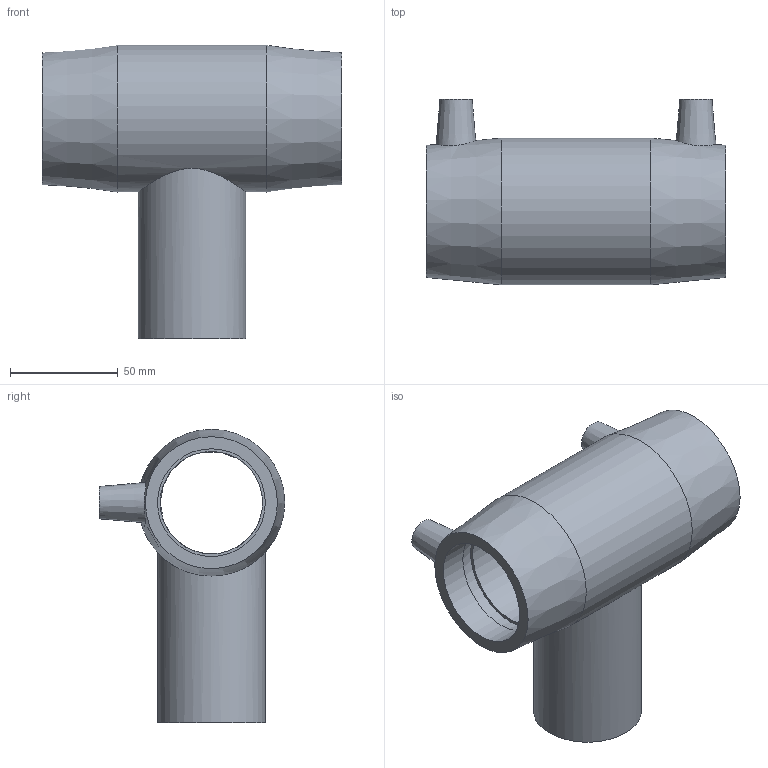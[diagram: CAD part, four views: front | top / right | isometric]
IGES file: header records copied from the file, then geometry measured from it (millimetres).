
Global section: file name: 490404050.ipt; native system: Autodesk Inventor 2015; preprocessor: unknown; author: KIM; date: 20171106.093611; units: millimetre
Bounding box: 139 x 86 x 136 mm (x, y, z)
Volume: 259829.3 mm3; surface area: 74976.9 mm2
Topology: 1 solids, 1 shells, 31 faces, 72 edges, 52 vertices
Faces by surface type: plane 13, revolution 10, cylinder 4, cone 4
Full cylindrical faces by diameter (mm): 4.8 x2, 50 x1, 68 x1
